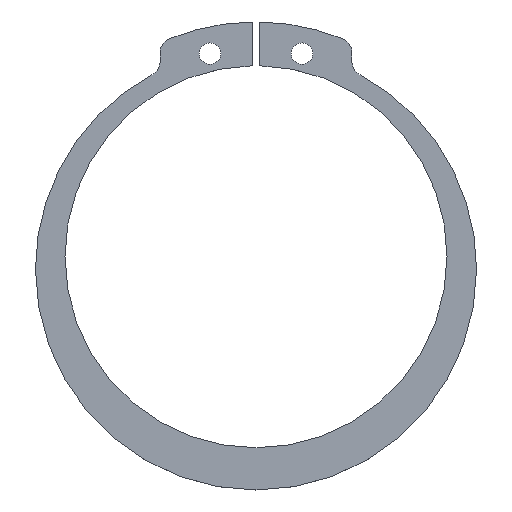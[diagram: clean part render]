
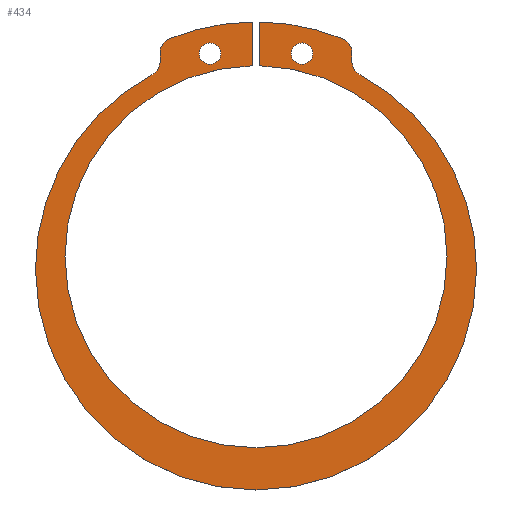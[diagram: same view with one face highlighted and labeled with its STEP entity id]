
A CAD part, top view. The second image highlights one B-rep face of the part: STEP entity #434.
In plain terms, the highlighted planar face has unit normal (0, 0, 1).
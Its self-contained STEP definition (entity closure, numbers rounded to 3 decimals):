
#70=CARTESIAN_POINT('Vertex',(-11.237,28.355,1.)) ;
#73=CARTESIAN_POINT('Axis2P3D Location',(0.,0.,1.)) ;
#77=CARTESIAN_POINT('Vertex',(-0.5,30.496,1.)) ;
#264=CARTESIAN_POINT('Vertex',(-12.5,26.495,1.)) ;
#267=CARTESIAN_POINT('Axis2P3D Location',(-10.5,26.495,1.)) ;
#279=CARTESIAN_POINT('Axis2P3D Location',(-14.5,25.367,1.)) ;
#284=CARTESIAN_POINT('Axis2P3D Location',(-14.5,25.367,1.)) ;
#288=CARTESIAN_POINT('Vertex',(-13.557,23.603,1.)) ;
#290=CARTESIAN_POINT('Vertex',(-12.5,25.367,1.)) ;
#293=CARTESIAN_POINT('Axis2P3D Location',(0.,-1.75,1.)) ;
#297=CARTESIAN_POINT('Vertex',(-28.75,-1.75,1.)) ;
#300=CARTESIAN_POINT('Axis2P3D Location',(0.,-1.75,1.)) ;
#304=CARTESIAN_POINT('Vertex',(28.75,-1.75,1.)) ;
#307=CARTESIAN_POINT('Axis2P3D Location',(0.,-1.75,1.)) ;
#311=CARTESIAN_POINT('Vertex',(13.557,23.603,1.)) ;
#314=CARTESIAN_POINT('Axis2P3D Location',(14.5,25.367,1.)) ;
#318=CARTESIAN_POINT('Vertex',(12.5,25.367,1.)) ;
#321=CARTESIAN_POINT('Line Origine',(12.5,25.931,1.)) ;
#325=CARTESIAN_POINT('Vertex',(12.5,26.495,1.)) ;
#328=CARTESIAN_POINT('Axis2P3D Location',(10.5,26.495,1.)) ;
#332=CARTESIAN_POINT('Vertex',(11.237,28.355,1.)) ;
#335=CARTESIAN_POINT('Axis2P3D Location',(0.,0.,1.)) ;
#339=CARTESIAN_POINT('Vertex',(0.5,30.496,1.)) ;
#342=CARTESIAN_POINT('Line Origine',(0.5,27.645,1.)) ;
#346=CARTESIAN_POINT('Vertex',(0.5,24.795,1.)) ;
#349=CARTESIAN_POINT('Axis2P3D Location',(0.,-0.1,1.)) ;
#353=CARTESIAN_POINT('Vertex',(24.9,-0.1,1.)) ;
#356=CARTESIAN_POINT('Axis2P3D Location',(0.,-0.1,1.)) ;
#360=CARTESIAN_POINT('Vertex',(-24.9,-0.1,1.)) ;
#363=CARTESIAN_POINT('Axis2P3D Location',(0.,-0.1,1.)) ;
#367=CARTESIAN_POINT('Vertex',(-0.5,24.795,1.)) ;
#370=CARTESIAN_POINT('Line Origine',(-0.5,27.645,1.)) ;
#375=CARTESIAN_POINT('Line Origine',(-12.5,25.931,1.)) ;
#398=CARTESIAN_POINT('Axis2P3D Location',(6.,26.367,1.)) ;
#402=CARTESIAN_POINT('Vertex',(4.6,26.367,1.)) ;
#404=CARTESIAN_POINT('Vertex',(7.4,26.367,1.)) ;
#407=CARTESIAN_POINT('Axis2P3D Location',(6.,26.367,1.)) ;
#416=CARTESIAN_POINT('Axis2P3D Location',(-6.,26.367,1.)) ;
#420=CARTESIAN_POINT('Vertex',(-7.4,26.367,1.)) ;
#422=CARTESIAN_POINT('Vertex',(-4.6,26.367,1.)) ;
#425=CARTESIAN_POINT('Axis2P3D Location',(-6.,26.367,1.)) ;
#74=DIRECTION('Axis2P3D Direction',(0.,0.,1.)) ;
#268=DIRECTION('Axis2P3D Direction',(0.,0.,1.)) ;
#280=DIRECTION('Axis2P3D Direction',(0.,0.,1.)) ;
#281=DIRECTION('Axis2P3D XDirection',(1.,0.,-0.)) ;
#285=DIRECTION('Axis2P3D Direction',(0.,0.,1.)) ;
#294=DIRECTION('Axis2P3D Direction',(0.,0.,1.)) ;
#301=DIRECTION('Axis2P3D Direction',(0.,0.,1.)) ;
#308=DIRECTION('Axis2P3D Direction',(0.,0.,1.)) ;
#315=DIRECTION('Axis2P3D Direction',(0.,0.,1.)) ;
#322=DIRECTION('Vector Direction',(0.,1.,0.)) ;
#329=DIRECTION('Axis2P3D Direction',(0.,0.,1.)) ;
#336=DIRECTION('Axis2P3D Direction',(0.,0.,1.)) ;
#343=DIRECTION('Vector Direction',(0.,-1.,0.)) ;
#350=DIRECTION('Axis2P3D Direction',(0.,0.,1.)) ;
#357=DIRECTION('Axis2P3D Direction',(0.,0.,1.)) ;
#364=DIRECTION('Axis2P3D Direction',(0.,0.,1.)) ;
#371=DIRECTION('Vector Direction',(0.,1.,0.)) ;
#376=DIRECTION('Vector Direction',(0.,-1.,0.)) ;
#399=DIRECTION('Axis2P3D Direction',(0.,0.,1.)) ;
#408=DIRECTION('Axis2P3D Direction',(0.,0.,1.)) ;
#417=DIRECTION('Axis2P3D Direction',(0.,0.,1.)) ;
#426=DIRECTION('Axis2P3D Direction',(0.,0.,1.)) ;
#75=AXIS2_PLACEMENT_3D('Circle Axis2P3D',#73,#74,$) ;
#269=AXIS2_PLACEMENT_3D('Circle Axis2P3D',#267,#268,$) ;
#282=AXIS2_PLACEMENT_3D('Plane Axis2P3D',#279,#280,#281) ;
#286=AXIS2_PLACEMENT_3D('Circle Axis2P3D',#284,#285,$) ;
#295=AXIS2_PLACEMENT_3D('Circle Axis2P3D',#293,#294,$) ;
#302=AXIS2_PLACEMENT_3D('Circle Axis2P3D',#300,#301,$) ;
#309=AXIS2_PLACEMENT_3D('Circle Axis2P3D',#307,#308,$) ;
#316=AXIS2_PLACEMENT_3D('Circle Axis2P3D',#314,#315,$) ;
#330=AXIS2_PLACEMENT_3D('Circle Axis2P3D',#328,#329,$) ;
#337=AXIS2_PLACEMENT_3D('Circle Axis2P3D',#335,#336,$) ;
#351=AXIS2_PLACEMENT_3D('Circle Axis2P3D',#349,#350,$) ;
#358=AXIS2_PLACEMENT_3D('Circle Axis2P3D',#356,#357,$) ;
#365=AXIS2_PLACEMENT_3D('Circle Axis2P3D',#363,#364,$) ;
#400=AXIS2_PLACEMENT_3D('Circle Axis2P3D',#398,#399,$) ;
#409=AXIS2_PLACEMENT_3D('Circle Axis2P3D',#407,#408,$) ;
#418=AXIS2_PLACEMENT_3D('Circle Axis2P3D',#416,#417,$) ;
#427=AXIS2_PLACEMENT_3D('Circle Axis2P3D',#425,#426,$) ;
#381=ORIENTED_EDGE('',*,*,#292,.F.) ;
#382=ORIENTED_EDGE('',*,*,#299,.T.) ;
#383=ORIENTED_EDGE('',*,*,#306,.T.) ;
#384=ORIENTED_EDGE('',*,*,#313,.T.) ;
#385=ORIENTED_EDGE('',*,*,#320,.F.) ;
#386=ORIENTED_EDGE('',*,*,#327,.T.) ;
#387=ORIENTED_EDGE('',*,*,#334,.T.) ;
#388=ORIENTED_EDGE('',*,*,#341,.T.) ;
#389=ORIENTED_EDGE('',*,*,#348,.T.) ;
#390=ORIENTED_EDGE('',*,*,#355,.F.) ;
#391=ORIENTED_EDGE('',*,*,#362,.F.) ;
#392=ORIENTED_EDGE('',*,*,#369,.F.) ;
#393=ORIENTED_EDGE('',*,*,#374,.T.) ;
#394=ORIENTED_EDGE('',*,*,#79,.T.) ;
#395=ORIENTED_EDGE('',*,*,#271,.T.) ;
#396=ORIENTED_EDGE('',*,*,#379,.T.) ;
#413=ORIENTED_EDGE('',*,*,#406,.F.) ;
#414=ORIENTED_EDGE('',*,*,#411,.F.) ;
#431=ORIENTED_EDGE('',*,*,#424,.F.) ;
#432=ORIENTED_EDGE('',*,*,#429,.F.) ;
#415=FACE_BOUND('',#412,.T.) ;
#433=FACE_BOUND('',#430,.T.) ;
#323=VECTOR('Line Direction',#322,1.) ;
#344=VECTOR('Line Direction',#343,1.) ;
#372=VECTOR('Line Direction',#371,1.) ;
#377=VECTOR('Line Direction',#376,1.) ;
#434=ADVANCED_FACE('553S-R54',(#397,#415,#433),#283,.T.) ;
#76=CIRCLE('generated circle',#75,30.5) ;
#270=CIRCLE('generated circle',#269,2.) ;
#287=CIRCLE('generated circle',#286,2.) ;
#296=CIRCLE('generated circle',#295,28.75) ;
#303=CIRCLE('generated circle',#302,28.75) ;
#310=CIRCLE('generated circle',#309,28.75) ;
#317=CIRCLE('generated circle',#316,2.) ;
#331=CIRCLE('generated circle',#330,2.) ;
#338=CIRCLE('generated circle',#337,30.5) ;
#352=CIRCLE('generated circle',#351,24.9) ;
#359=CIRCLE('generated circle',#358,24.9) ;
#366=CIRCLE('generated circle',#365,24.9) ;
#401=CIRCLE('generated circle',#400,1.4) ;
#410=CIRCLE('generated circle',#409,1.4) ;
#419=CIRCLE('generated circle',#418,1.4) ;
#428=CIRCLE('generated circle',#427,1.4) ;
#79=EDGE_CURVE('',#78,#71,#76,.T.) ;
#271=EDGE_CURVE('',#71,#265,#270,.T.) ;
#292=EDGE_CURVE('',#289,#291,#287,.T.) ;
#299=EDGE_CURVE('',#289,#298,#296,.T.) ;
#306=EDGE_CURVE('',#298,#305,#303,.T.) ;
#313=EDGE_CURVE('',#305,#312,#310,.T.) ;
#320=EDGE_CURVE('',#319,#312,#317,.T.) ;
#327=EDGE_CURVE('',#319,#326,#324,.T.) ;
#334=EDGE_CURVE('',#326,#333,#331,.T.) ;
#341=EDGE_CURVE('',#333,#340,#338,.T.) ;
#348=EDGE_CURVE('',#340,#347,#345,.T.) ;
#355=EDGE_CURVE('',#354,#347,#352,.T.) ;
#362=EDGE_CURVE('',#361,#354,#359,.T.) ;
#369=EDGE_CURVE('',#368,#361,#366,.T.) ;
#374=EDGE_CURVE('',#368,#78,#373,.T.) ;
#379=EDGE_CURVE('',#265,#291,#378,.T.) ;
#406=EDGE_CURVE('',#403,#405,#401,.T.) ;
#411=EDGE_CURVE('',#405,#403,#410,.T.) ;
#424=EDGE_CURVE('',#421,#423,#419,.T.) ;
#429=EDGE_CURVE('',#423,#421,#428,.T.) ;
#380=EDGE_LOOP('',(#381,#382,#383,#384,#385,#386,#387,#388,#389,#390,#391,#392,#393,#394,#395,#396)) ;
#412=EDGE_LOOP('',(#413,#414)) ;
#430=EDGE_LOOP('',(#431,#432)) ;
#397=FACE_OUTER_BOUND('',#380,.T.) ;
#324=LINE('Line',#321,#323) ;
#345=LINE('Line',#342,#344) ;
#373=LINE('Line',#370,#372) ;
#378=LINE('Line',#375,#377) ;
#283=PLANE('Plane',#282) ;
#71=VERTEX_POINT('',#70) ;
#78=VERTEX_POINT('',#77) ;
#265=VERTEX_POINT('',#264) ;
#289=VERTEX_POINT('',#288) ;
#291=VERTEX_POINT('',#290) ;
#298=VERTEX_POINT('',#297) ;
#305=VERTEX_POINT('',#304) ;
#312=VERTEX_POINT('',#311) ;
#319=VERTEX_POINT('',#318) ;
#326=VERTEX_POINT('',#325) ;
#333=VERTEX_POINT('',#332) ;
#340=VERTEX_POINT('',#339) ;
#347=VERTEX_POINT('',#346) ;
#354=VERTEX_POINT('',#353) ;
#361=VERTEX_POINT('',#360) ;
#368=VERTEX_POINT('',#367) ;
#403=VERTEX_POINT('',#402) ;
#405=VERTEX_POINT('',#404) ;
#421=VERTEX_POINT('',#420) ;
#423=VERTEX_POINT('',#422) ;
